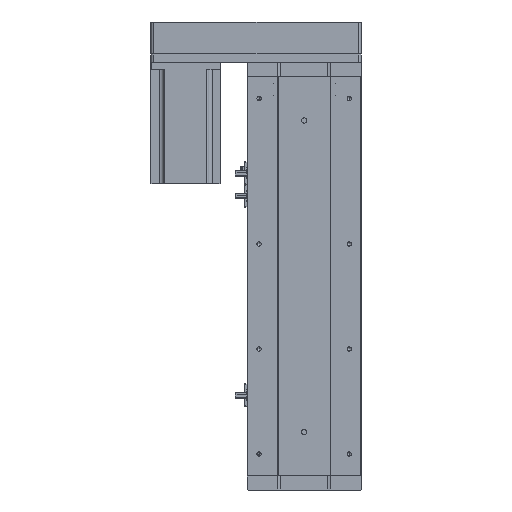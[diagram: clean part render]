
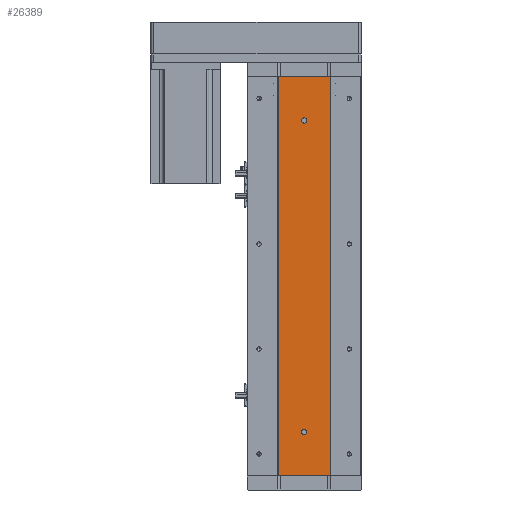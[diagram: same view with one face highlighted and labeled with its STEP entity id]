
A CAD part, left-side view. The second image highlights one B-rep face of the part: STEP entity #26389.
In plain terms, the highlighted planar face has unit normal (-1, 0, 0).
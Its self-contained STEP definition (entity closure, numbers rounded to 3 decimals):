
#2711 = VERTEX_POINT ( 'NONE', #10624 ) ;
#2983 = VERTEX_POINT ( 'NONE', #32057 ) ;
#4030 = CARTESIAN_POINT ( 'NONE',  ( -24.994, 0., 50. ) ) ;
#5231 = CARTESIAN_POINT ( 'NONE',  ( -24.994, -29.785, 0. ) ) ;
#5570 = EDGE_CURVE ( 'NONE', #34225, #37474, #37943, .T. ) ;
#6702 = EDGE_LOOP ( 'NONE', ( #21917, #34016, #41805, #26974 ) ) ;
#6929 = AXIS2_PLACEMENT_3D ( 'NONE', #32233, #12082, #35598 ) ;
#7229 = CARTESIAN_POINT ( 'NONE',  ( -24.994, 29.785, 0. ) ) ;
#7400 = DIRECTION ( 'NONE',  ( 0., 0., 1. ) ) ;
#7599 = DIRECTION ( 'NONE',  ( 0., -1., 0. ) ) ;
#8044 = DIRECTION ( 'NONE',  ( 0., 0., -1. ) ) ;
#8884 = FACE_BOUND ( 'NONE', #20858, .T. ) ;
#9162 = VERTEX_POINT ( 'NONE', #38773 ) ;
#10624 = CARTESIAN_POINT ( 'NONE',  ( -24.994, 0., 47. ) ) ;
#11003 = VECTOR ( 'NONE', #7599, 1000. ) ;
#11072 = EDGE_LOOP ( 'NONE', ( #26023, #24705 ) ) ;
#11332 = AXIS2_PLACEMENT_3D ( 'NONE', #18738, #42243, #22127 ) ;
#12082 = DIRECTION ( 'NONE',  ( -1., 0., 0. ) ) ;
#12142 = CIRCLE ( 'NONE', #15400, 3. ) ;
#12229 = EDGE_CURVE ( 'NONE', #31705, #2711, #33542, .T. ) ;
#12301 = DIRECTION ( 'NONE',  ( -1., 0., 0. ) ) ;
#13169 = VERTEX_POINT ( 'NONE', #7229 ) ;
#13726 = ORIENTED_EDGE ( 'NONE', *, *, #42853, .F. ) ;
#13832 = EDGE_CURVE ( 'NONE', #40209, #2983, #14076, .T. ) ;
#14076 = CIRCLE ( 'NONE', #6929, 3. ) ;
#14545 = CARTESIAN_POINT ( 'NONE',  ( -24.994, 0., 409. ) ) ;
#15059 = AXIS2_PLACEMENT_3D ( 'NONE', #39180, #19061, #42547 ) ;
#15400 = AXIS2_PLACEMENT_3D ( 'NONE', #4030, #27519, #7400 ) ;
#17827 = FACE_OUTER_BOUND ( 'NONE', #6702, .T. ) ;
#18738 = CARTESIAN_POINT ( 'NONE',  ( -24.994, 0., 50. ) ) ;
#18900 = ORIENTED_EDGE ( 'NONE', *, *, #13832, .F. ) ;
#19061 = DIRECTION ( 'NONE',  ( 1., 0., 0. ) ) ;
#20439 = EDGE_CURVE ( 'NONE', #13169, #37474, #32753, .T. ) ;
#20858 = EDGE_LOOP ( 'NONE', ( #18900, #13726 ) ) ;
#21042 = DIRECTION ( 'NONE',  ( 0., -1., 0. ) ) ;
#21412 = CARTESIAN_POINT ( 'NONE',  ( -24.994, -29.785, 456. ) ) ;
#21917 = ORIENTED_EDGE ( 'NONE', *, *, #20439, .T. ) ;
#22127 = DIRECTION ( 'NONE',  ( 0., 0., 1. ) ) ;
#23824 = VECTOR ( 'NONE', #21042, 1000. ) ;
#24151 = CIRCLE ( 'NONE', #25984, 3. ) ;
#24400 = CARTESIAN_POINT ( 'NONE',  ( -24.994, 29.785, 0. ) ) ;
#24656 = CARTESIAN_POINT ( 'NONE',  ( -24.994, -29.785, 456. ) ) ;
#24705 = ORIENTED_EDGE ( 'NONE', *, *, #33544, .F. ) ;
#25024 = VECTOR ( 'NONE', #34304, 1000. ) ;
#25656 = PLANE ( 'NONE',  #15059 ) ;
#25984 = AXIS2_PLACEMENT_3D ( 'NONE', #32457, #12301, #35829 ) ;
#26023 = ORIENTED_EDGE ( 'NONE', *, *, #12229, .F. ) ;
#26389 = ADVANCED_FACE ( 'NONE', ( #8884, #35697, #17827 ), #25656, .F. ) ;
#26974 = ORIENTED_EDGE ( 'NONE', *, *, #28859, .T. ) ;
#27167 = LINE ( 'NONE', #30941, #25024 ) ;
#27519 = DIRECTION ( 'NONE',  ( -1., 0., 0. ) ) ;
#28859 = EDGE_CURVE ( 'NONE', #9162, #13169, #27167, .T. ) ;
#28999 = VECTOR ( 'NONE', #8044, 1000. ) ;
#30941 = CARTESIAN_POINT ( 'NONE',  ( -24.994, 29.785, 456. ) ) ;
#31705 = VERTEX_POINT ( 'NONE', #37800 ) ;
#32057 = CARTESIAN_POINT ( 'NONE',  ( -24.994, 0., 403. ) ) ;
#32233 = CARTESIAN_POINT ( 'NONE',  ( -24.994, 0., 406. ) ) ;
#32457 = CARTESIAN_POINT ( 'NONE',  ( -24.994, 0., 406. ) ) ;
#32753 = LINE ( 'NONE', #24400, #23824 ) ;
#33542 = CIRCLE ( 'NONE', #11332, 3. ) ;
#33544 = EDGE_CURVE ( 'NONE', #2711, #31705, #12142, .T. ) ;
#34016 = ORIENTED_EDGE ( 'NONE', *, *, #5570, .F. ) ;
#34225 = VERTEX_POINT ( 'NONE', #24656 ) ;
#34304 = DIRECTION ( 'NONE',  ( 0., 0., -1. ) ) ;
#35598 = DIRECTION ( 'NONE',  ( 0., 0., 1. ) ) ;
#35697 = FACE_BOUND ( 'NONE', #11072, .T. ) ;
#35829 = DIRECTION ( 'NONE',  ( 0., 0., 1. ) ) ;
#37474 = VERTEX_POINT ( 'NONE', #5231 ) ;
#37800 = CARTESIAN_POINT ( 'NONE',  ( -24.994, 0., 53. ) ) ;
#37818 = LINE ( 'NONE', #40211, #11003 ) ;
#37943 = LINE ( 'NONE', #21412, #28999 ) ;
#38773 = CARTESIAN_POINT ( 'NONE',  ( -24.994, 29.785, 456. ) ) ;
#39180 = CARTESIAN_POINT ( 'NONE',  ( -24.994, 29.785, 456. ) ) ;
#40209 = VERTEX_POINT ( 'NONE', #14545 ) ;
#40211 = CARTESIAN_POINT ( 'NONE',  ( -24.994, 29.785, 456. ) ) ;
#41221 = EDGE_CURVE ( 'NONE', #9162, #34225, #37818, .T. ) ;
#41805 = ORIENTED_EDGE ( 'NONE', *, *, #41221, .F. ) ;
#42243 = DIRECTION ( 'NONE',  ( -1., 0., 0. ) ) ;
#42547 = DIRECTION ( 'NONE',  ( 0., 0., -1. ) ) ;
#42853 = EDGE_CURVE ( 'NONE', #2983, #40209, #24151, .T. ) ;
